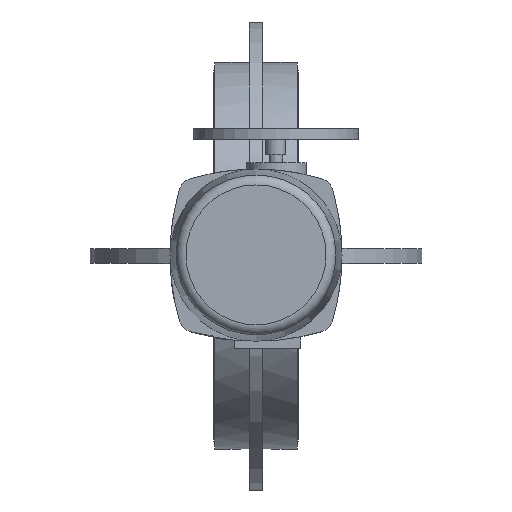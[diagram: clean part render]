
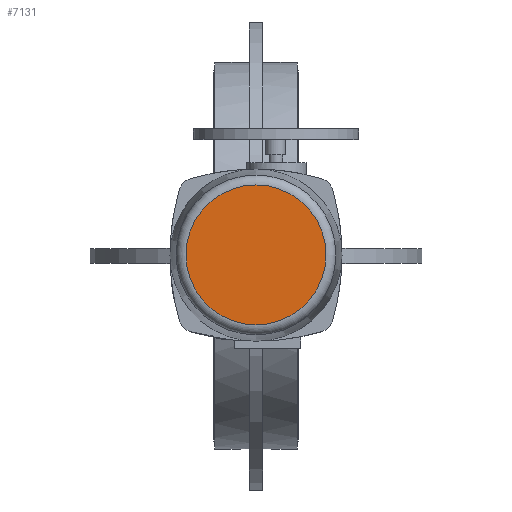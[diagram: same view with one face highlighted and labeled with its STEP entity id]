
A CAD part, top view. The second image highlights one B-rep face of the part: STEP entity #7131.
In plain terms, the highlighted planar face has unit normal (0, 0, 1).
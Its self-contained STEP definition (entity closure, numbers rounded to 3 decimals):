
#7131=ADVANCED_FACE('',(#12866),#12868,.T.);
#12866=FACE_BOUND('',#12867,.T.);
#12867=EDGE_LOOP('',(#17317));
#12868=PLANE('',#12869);
#12869=AXIS2_PLACEMENT_3D('',#12870,#12871,#12872);
#12870=CARTESIAN_POINT('',(0.,0.,935.));
#12871=DIRECTION('',(0.,0.,1.));
#12872=DIRECTION('',(0.,-1.,0.));
#17317=ORIENTED_EDGE('',*,*,#19531,.F.);
#19531=EDGE_CURVE('',#23233,#23233,#23234,.T.);
#23233=VERTEX_POINT('',#33426);
#23234=CIRCLE('',#33427,105.81);
#33426=CARTESIAN_POINT('',(0.,-105.81,935.));
#33427=AXIS2_PLACEMENT_3D('',#33428,#33429,#33430);
#33428=CARTESIAN_POINT('',(0.,0.,935.));
#33429=DIRECTION('',(0.,0.,-1.));
#33430=DIRECTION('',(0.,-1.,0.));
